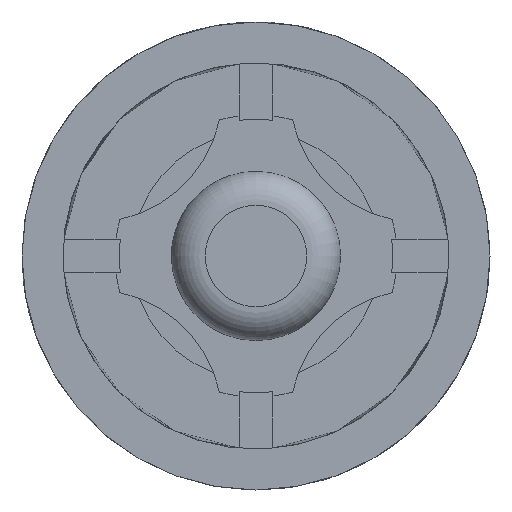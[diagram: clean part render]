
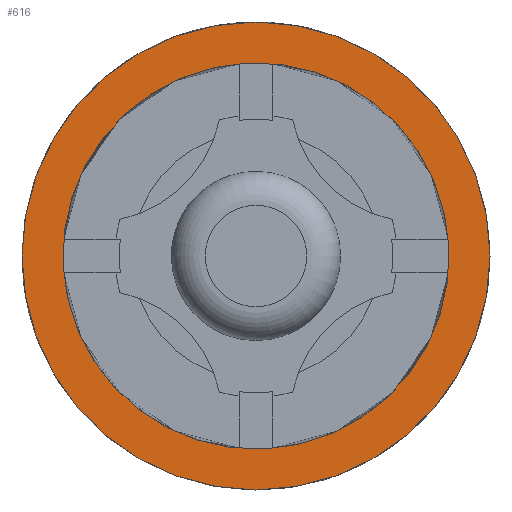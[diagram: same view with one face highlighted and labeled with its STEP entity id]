
A CAD part, front view. The second image highlights one B-rep face of the part: STEP entity #616.
In plain terms, the highlighted planar face has unit normal (0, -1, 0).
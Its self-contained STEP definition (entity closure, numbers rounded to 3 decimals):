
#616=ADVANCED_FACE('',(#10733,#10735),#10737,.T.);
#10733=FACE_BOUND('',#10734,.T.);
#10734=EDGE_LOOP('',(#17619));
#10735=FACE_BOUND('',#10736,.T.);
#10736=EDGE_LOOP('',(#17620));
#10737=PLANE('',#10738);
#10738=AXIS2_PLACEMENT_3D('',#10739,#10740,#10741);
#10739=CARTESIAN_POINT('',(178.608,112.587,0.));
#10740=DIRECTION('',(0.,-1.,0.));
#10741=DIRECTION('',(0.,0.,-1.));
#17619=ORIENTED_EDGE('',*,*,#21710,.T.);
#17620=ORIENTED_EDGE('',*,*,#22342,.F.);
#21710=EDGE_CURVE('',#24308,#24308,#24309,.T.);
#22342=EDGE_CURVE('',#25537,#25537,#25538,.T.);
#24308=VERTEX_POINT('',#28909);
#24309=CIRCLE('',#28910,41.5);
#25537=VERTEX_POINT('',#32641);
#25538=CIRCLE('',#32642,34.25);
#28909=CARTESIAN_POINT('',(102.858,112.587,0.));
#28910=AXIS2_PLACEMENT_3D('',#28911,#28912,#28913);
#28911=CARTESIAN_POINT('',(144.358,112.587,0.));
#28912=DIRECTION('',(0.,-1.,0.));
#28913=DIRECTION('',(1.,0.,0.));
#32641=CARTESIAN_POINT('',(178.575,112.587,1.501));
#32642=AXIS2_PLACEMENT_3D('',#32643,#32644,#32645);
#32643=CARTESIAN_POINT('',(144.358,112.587,0.));
#32644=DIRECTION('',(0.,-1.,0.));
#32645=DIRECTION('',(1.,0.,0.));
